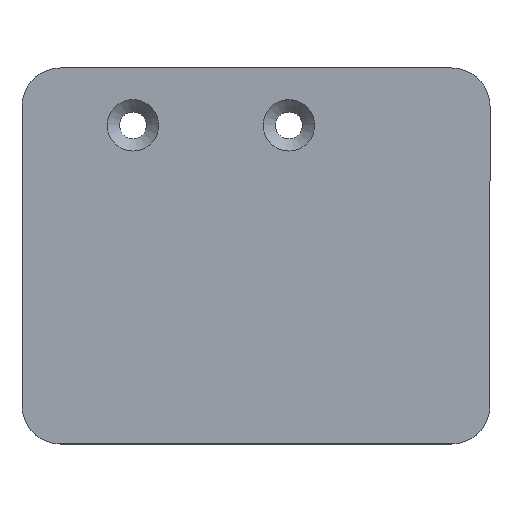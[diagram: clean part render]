
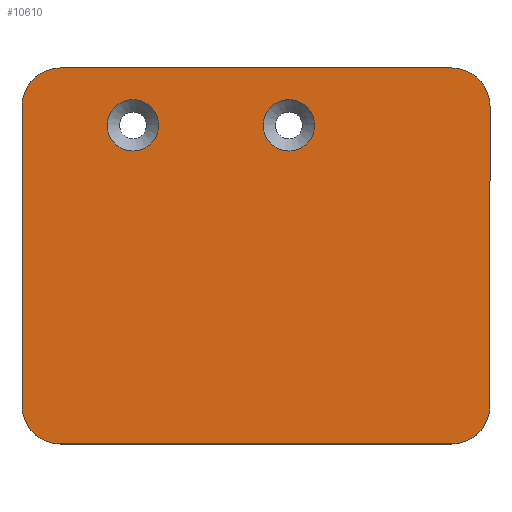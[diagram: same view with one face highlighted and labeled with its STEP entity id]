
A CAD part, top view. The second image highlights one B-rep face of the part: STEP entity #10610.
In plain terms, the highlighted planar face has unit normal (0, 0, 1) as drawn and (0, 0, -1) by its records, which use the part's own axes.
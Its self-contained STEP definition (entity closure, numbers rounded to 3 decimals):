
#592 = EDGE_CURVE ( 'NONE', #38386, #38386, #22806, .T. ) ;
#1231 = VERTEX_POINT ( 'NONE', #27993 ) ;
#2045 = EDGE_CURVE ( 'NONE', #31746, #11325, #49070, .T. ) ;
#2544 = DIRECTION ( 'NONE',  ( 0., 0., 1. ) ) ;
#2962 = FACE_BOUND ( 'NONE', #46693, .T. ) ;
#3016 = DIRECTION ( 'NONE',  ( 0., 0., -1. ) ) ;
#3276 = PLANE ( 'NONE',  #24904 ) ;
#3708 = CIRCLE ( 'NONE', #39433, 5. ) ;
#4085 = VECTOR ( 'NONE', #28980, 1000. ) ;
#4787 = DIRECTION ( 'NONE',  ( 0., 0., 1. ) ) ;
#4932 = VECTOR ( 'NONE', #25082, 1000. ) ;
#5233 = DIRECTION ( 'NONE',  ( 1., 0., 0. ) ) ;
#5612 = ORIENTED_EDGE ( 'NONE', *, *, #28982, .T. ) ;
#5798 = EDGE_CURVE ( 'NONE', #39645, #11325, #49577, .T. ) ;
#6341 = CARTESIAN_POINT ( 'NONE',  ( -25.5, -24.5, -2.25 ) ) ;
#6771 = DIRECTION ( 'NONE',  ( 0., 0., -1. ) ) ;
#7227 = ORIENTED_EDGE ( 'NONE', *, *, #2045, .F. ) ;
#7244 = CARTESIAN_POINT ( 'NONE',  ( 25.5, 19.5, -2.25 ) ) ;
#7964 = VERTEX_POINT ( 'NONE', #32115 ) ;
#8333 = FACE_BOUND ( 'NONE', #29585, .T. ) ;
#8398 = AXIS2_PLACEMENT_3D ( 'NONE', #41236, #3016, #22097 ) ;
#9145 = CARTESIAN_POINT ( 'NONE',  ( -25.5, -19.5, -2.25 ) ) ;
#9428 = EDGE_CURVE ( 'NONE', #1231, #7964, #19228, .T. ) ;
#9515 = AXIS2_PLACEMENT_3D ( 'NONE', #14083, #14242, #44789 ) ;
#9643 = DIRECTION ( 'NONE',  ( 0., 0., -1. ) ) ;
#9752 = CARTESIAN_POINT ( 'NONE',  ( 16.036, 17.02, -2.25 ) ) ;
#10610 = ADVANCED_FACE ( 'NONE', ( #8333, #2962, #40148 ), #3276, .F. ) ;
#11147 = ORIENTED_EDGE ( 'NONE', *, *, #21468, .F. ) ;
#11275 = EDGE_CURVE ( 'NONE', #7964, #20985, #31225, .T. ) ;
#11325 = VERTEX_POINT ( 'NONE', #16110 ) ;
#11742 = CARTESIAN_POINT ( 'NONE',  ( -30.5, -19.5, -2.25 ) ) ;
#12147 = VECTOR ( 'NONE', #23725, 1000. ) ;
#13772 = AXIS2_PLACEMENT_3D ( 'NONE', #9752, #2544, #29352 ) ;
#14083 = CARTESIAN_POINT ( 'NONE',  ( -4.284, 17.02, -2.25 ) ) ;
#14242 = DIRECTION ( 'NONE',  ( 0., 0., 1. ) ) ;
#16110 = CARTESIAN_POINT ( 'NONE',  ( 25.5, -24.5, -2.25 ) ) ;
#16409 = CARTESIAN_POINT ( 'NONE',  ( -30.5, 0., -2.25 ) ) ;
#16519 = CARTESIAN_POINT ( 'NONE',  ( 0., 0., -2.25 ) ) ;
#16914 = ORIENTED_EDGE ( 'NONE', *, *, #5798, .T. ) ;
#17106 = EDGE_CURVE ( 'NONE', #31746, #24594, #48768, .T. ) ;
#17192 = DIRECTION ( 'NONE',  ( 1., 0., 0. ) ) ;
#18141 = ORIENTED_EDGE ( 'NONE', *, *, #31316, .T. ) ;
#18762 = ORIENTED_EDGE ( 'NONE', *, *, #38723, .T. ) ;
#19228 = CIRCLE ( 'NONE', #26153, 5. ) ;
#19564 = CARTESIAN_POINT ( 'NONE',  ( 30.5, 0., -2.25 ) ) ;
#20985 = VERTEX_POINT ( 'NONE', #39224 ) ;
#21014 = VECTOR ( 'NONE', #5233, 1000. ) ;
#21244 = CARTESIAN_POINT ( 'NONE',  ( 0., -24.5, -2.25 ) ) ;
#21468 = EDGE_CURVE ( 'NONE', #39645, #44135, #46940, .T. ) ;
#22097 = DIRECTION ( 'NONE',  ( 1., 0., 0. ) ) ;
#22806 = CIRCLE ( 'NONE', #9515, 3.35 ) ;
#23725 = DIRECTION ( 'NONE',  ( 0., 1., 0. ) ) ;
#24405 = ORIENTED_EDGE ( 'NONE', *, *, #9428, .T. ) ;
#24594 = VERTEX_POINT ( 'NONE', #11742 ) ;
#24904 = AXIS2_PLACEMENT_3D ( 'NONE', #16519, #4787, #27729 ) ;
#25082 = DIRECTION ( 'NONE',  ( 0., 1., 0. ) ) ;
#26153 = AXIS2_PLACEMENT_3D ( 'NONE', #40512, #47572, #44369 ) ;
#26181 = DIRECTION ( 'NONE',  ( 1., 0., 0. ) ) ;
#27729 = DIRECTION ( 'NONE',  ( 1., 0., 0. ) ) ;
#27993 = CARTESIAN_POINT ( 'NONE',  ( -30.5, 19.5, -2.25 ) ) ;
#28980 = DIRECTION ( 'NONE',  ( 1., 0., 0. ) ) ;
#28982 = EDGE_CURVE ( 'NONE', #24594, #1231, #40913, .T. ) ;
#29352 = DIRECTION ( 'NONE',  ( 1., 0., 0. ) ) ;
#29585 = EDGE_LOOP ( 'NONE', ( #18141 ) ) ;
#30249 = CARTESIAN_POINT ( 'NONE',  ( 30.5, 19.5, -2.25 ) ) ;
#30525 = ORIENTED_EDGE ( 'NONE', *, *, #592, .T. ) ;
#31225 = LINE ( 'NONE', #46804, #21014 ) ;
#31316 = EDGE_CURVE ( 'NONE', #37749, #37749, #35890, .T. ) ;
#31746 = VERTEX_POINT ( 'NONE', #6341 ) ;
#32115 = CARTESIAN_POINT ( 'NONE',  ( -25.5, 24.5, -2.25 ) ) ;
#32122 = CARTESIAN_POINT ( 'NONE',  ( 30.5, -19.5, -2.25 ) ) ;
#35890 = CIRCLE ( 'NONE', #13772, 3.35 ) ;
#37749 = VERTEX_POINT ( 'NONE', #39235 ) ;
#38386 = VERTEX_POINT ( 'NONE', #42273 ) ;
#38723 = EDGE_CURVE ( 'NONE', #20985, #44135, #3708, .T. ) ;
#39224 = CARTESIAN_POINT ( 'NONE',  ( 25.5, 24.5, -2.25 ) ) ;
#39235 = CARTESIAN_POINT ( 'NONE',  ( 19.386, 17.02, -2.25 ) ) ;
#39433 = AXIS2_PLACEMENT_3D ( 'NONE', #7244, #6771, #26181 ) ;
#39645 = VERTEX_POINT ( 'NONE', #32122 ) ;
#40148 = FACE_OUTER_BOUND ( 'NONE', #41084, .T. ) ;
#40512 = CARTESIAN_POINT ( 'NONE',  ( -25.5, 19.5, -2.25 ) ) ;
#40913 = LINE ( 'NONE', #16409, #4932 ) ;
#41084 = EDGE_LOOP ( 'NONE', ( #7227, #46761, #5612, #24405, #48988, #18762, #11147, #16914 ) ) ;
#41236 = CARTESIAN_POINT ( 'NONE',  ( 25.5, -19.5, -2.25 ) ) ;
#42273 = CARTESIAN_POINT ( 'NONE',  ( -0.934, 17.02, -2.25 ) ) ;
#44135 = VERTEX_POINT ( 'NONE', #30249 ) ;
#44369 = DIRECTION ( 'NONE',  ( 1., 0., 0. ) ) ;
#44789 = DIRECTION ( 'NONE',  ( 1., 0., 0. ) ) ;
#46693 = EDGE_LOOP ( 'NONE', ( #30525 ) ) ;
#46761 = ORIENTED_EDGE ( 'NONE', *, *, #17106, .T. ) ;
#46804 = CARTESIAN_POINT ( 'NONE',  ( 0., 24.5, -2.25 ) ) ;
#46940 = LINE ( 'NONE', #19564, #12147 ) ;
#47572 = DIRECTION ( 'NONE',  ( 0., 0., -1. ) ) ;
#48768 = CIRCLE ( 'NONE', #49191, 5. ) ;
#48988 = ORIENTED_EDGE ( 'NONE', *, *, #11275, .T. ) ;
#49070 = LINE ( 'NONE', #21244, #4085 ) ;
#49191 = AXIS2_PLACEMENT_3D ( 'NONE', #9145, #9643, #17192 ) ;
#49577 = CIRCLE ( 'NONE', #8398, 5. ) ;
